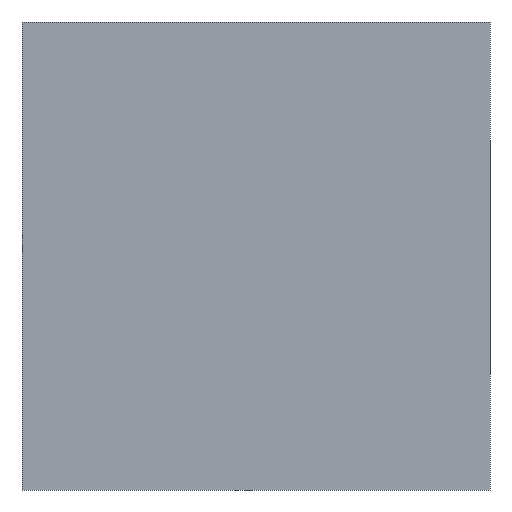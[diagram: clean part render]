
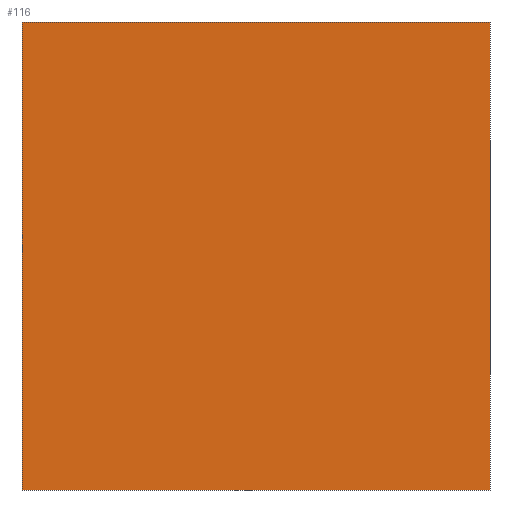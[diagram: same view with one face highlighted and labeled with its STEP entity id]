
A CAD part, front view. The second image highlights one B-rep face of the part: STEP entity #116.
In plain terms, the highlighted planar face has unit normal (0, -1, 0).
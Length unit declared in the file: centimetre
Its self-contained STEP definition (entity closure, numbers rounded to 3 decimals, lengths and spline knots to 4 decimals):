
#26 = DIRECTION ( 'NONE',  ( 0., 0., -1. ) ) ;
#28 = LINE ( 'NONE', #131, #459 ) ;
#82 = CARTESIAN_POINT ( 'NONE',  ( 0., 0., 0. ) ) ;
#88 = VECTOR ( 'NONE', #387, 100. ) ;
#92 = CARTESIAN_POINT ( 'NONE',  ( 0., 0., 1000. ) ) ;
#97 = CARTESIAN_POINT ( 'NONE',  ( 1000., 0., 1000. ) ) ;
#107 = CARTESIAN_POINT ( 'NONE',  ( 0., 0., 1000. ) ) ;
#116 = ADVANCED_FACE ( 'NONE', ( #436 ), #190, .F. ) ;
#123 = VECTOR ( 'NONE', #421, 100. ) ;
#125 = CARTESIAN_POINT ( 'NONE',  ( 0., 0., 0. ) ) ;
#127 = DIRECTION ( 'NONE',  ( 1., 0., 0. ) ) ;
#131 = CARTESIAN_POINT ( 'NONE',  ( 1000., 0., 1000. ) ) ;
#149 = DIRECTION ( 'NONE',  ( 0., 0., 1. ) ) ;
#161 = ORIENTED_EDGE ( 'NONE', *, *, #344, .F. ) ;
#190 = PLANE ( 'NONE',  #301 ) ;
#204 = EDGE_LOOP ( 'NONE', ( #376, #161, #424, #327 ) ) ;
#209 = VERTEX_POINT ( 'NONE', #286 ) ;
#222 = EDGE_CURVE ( 'NONE', #325, #341, #487, .T. ) ;
#225 = LINE ( 'NONE', #304, #123 ) ;
#226 = VERTEX_POINT ( 'NONE', #125 ) ;
#275 = LINE ( 'NONE', #82, #88 ) ;
#286 = CARTESIAN_POINT ( 'NONE',  ( 1000., 0., 0. ) ) ;
#301 = AXIS2_PLACEMENT_3D ( 'NONE', #107, #398, #149 ) ;
#304 = CARTESIAN_POINT ( 'NONE',  ( 0., 0., 1000. ) ) ;
#325 = VERTEX_POINT ( 'NONE', #399 ) ;
#327 = ORIENTED_EDGE ( 'NONE', *, *, #409, .T. ) ;
#341 = VERTEX_POINT ( 'NONE', #97 ) ;
#344 = EDGE_CURVE ( 'NONE', #341, #209, #28, .T. ) ;
#363 = VECTOR ( 'NONE', #127, 100. ) ;
#376 = ORIENTED_EDGE ( 'NONE', *, *, #506, .T. ) ;
#387 = DIRECTION ( 'NONE',  ( 1., 0., 0. ) ) ;
#398 = DIRECTION ( 'NONE',  ( 0., 1., 0. ) ) ;
#399 = CARTESIAN_POINT ( 'NONE',  ( 0., 0., 1000. ) ) ;
#409 = EDGE_CURVE ( 'NONE', #325, #226, #225, .T. ) ;
#421 = DIRECTION ( 'NONE',  ( 0., 0., -1. ) ) ;
#424 = ORIENTED_EDGE ( 'NONE', *, *, #222, .F. ) ;
#436 = FACE_OUTER_BOUND ( 'NONE', #204, .T. ) ;
#459 = VECTOR ( 'NONE', #26, 100. ) ;
#487 = LINE ( 'NONE', #92, #363 ) ;
#506 = EDGE_CURVE ( 'NONE', #226, #209, #275, .T. ) ;
